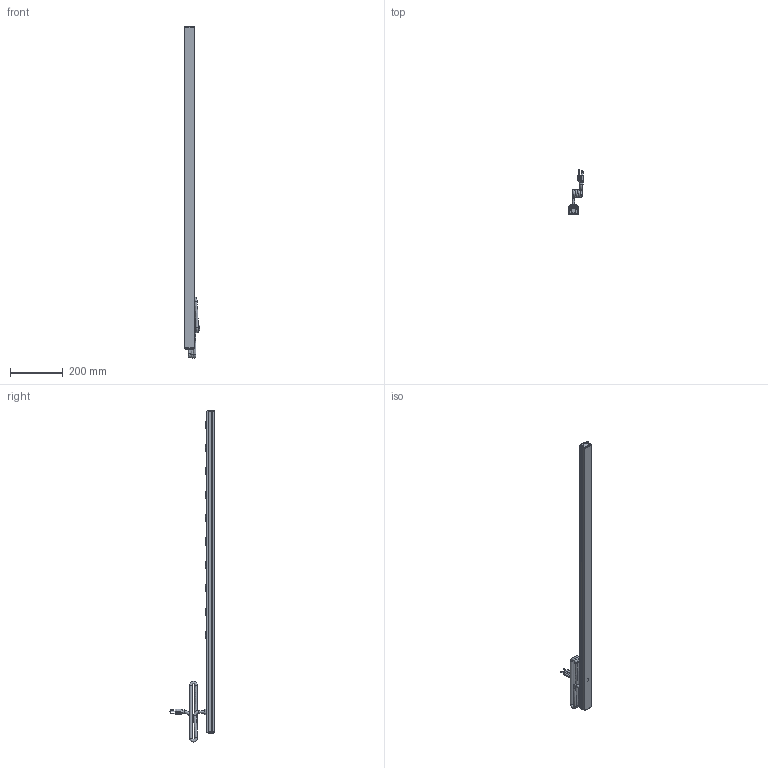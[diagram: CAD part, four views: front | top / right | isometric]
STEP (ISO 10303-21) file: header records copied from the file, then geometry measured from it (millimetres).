
FILE_DESCRIPTION(/* description */ (''),/* implementation_level */ '2;1');
FILE_NAME(/* name */ 'E:\Manufacturing\drawings\Web Drawings\POWER BARS\Surge Protection\1585, 87, 88 ''S'' series\STEP''s\1585T10A1S.stp',/* time_stamp */ '2019-01-14T12:24:06-05:00',/* author */ ('tfoster'),/* organization */ (''),/* preprocessor_version */ 'ST-DEVELOPER v17',/* originating_system */ 'Autodesk Inventor 2019',/* authorisation */ '');
FILE_SCHEMA (('AUTOMOTIVE_DESIGN { 1 0 10303 214 3 1 1 }'));
Products named in the file (12): 1585T10A1S; 1585H8 top; 1585 bottom; End Cap; End Cap w breaker; Reset Switch; #26727; Cored 2; Surge Light; tamper proof screw; Receptacle; Power light
Assembly tree (23 placements, depth 2):
  1585T10A1S
    1585H8 top
    1585 bottom
    End Cap
    End Cap w breaker
    Reset Switch
    #26727  x4
    Cored 2
    Surge Light
    tamper proof screw
    Receptacle  x10
    Power light
Bounding box: 60.19 x 170.82 x 1262.79 mm (x, y, z)
Volume: 525133.9 mm3; surface area: 485343.2 mm2
Topology: 23 solids, 23 shells, 1219 faces, 3280 edges, 2093 vertices
Faces by surface type: plane 688, cylinder 350, bspline 91, sphere 47, cone 29, torus 14
Full cylindrical faces by diameter (mm): 1.803 x3, 1.905 x2, 2.13 x20, 3 x2, 3.175 x12, 3.505 x12, 4.775 x1, 4.826 x1, 6.858 x1, 7.747 x1, 8 x1, 9.5 x5, 9.652 x1, 11 x1, 15.621 x1, 19.05 x2
Entity records: 26475 total; most frequent: CARTESIAN_POINT 10151, ORIENTED_EDGE 3480, DIRECTION 3030, EDGE_CURVE 1740, VERTEX_POINT 1151, LINE 1062, VECTOR 1062, AXIS2_PLACEMENT_3D 984
